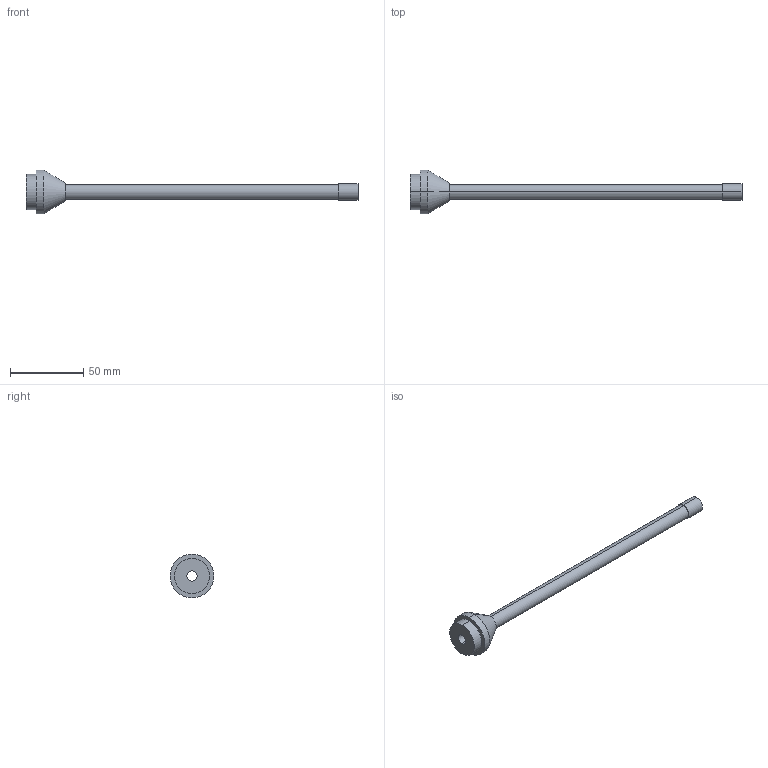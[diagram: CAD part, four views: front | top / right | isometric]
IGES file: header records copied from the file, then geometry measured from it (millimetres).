
Start section: SolidWorks IGES FILE using analytic representation for surfaces
Global section: file name: \\intra-srv04\開発データ\CAD_Data\CAD委員会\3D電子ｶﾀﾛｸﾞ\製品カタログ（新）\0_IGES\ER-AD20.IGS,41HSolidWorks 2004; native system: by SolidWorks Corporation; preprocessor: Version 5.3; author: mf1158; date: 050905.105718; units: millimetre
Bounding box: 227 x 30 x 30 mm (x, y, z)
Volume: 19400.9 mm3; surface area: 14245.1 mm2
Topology: 1 solids, 1 shells, 17 faces, 34 edges, 22 vertices
Faces by surface type: revolution 12, plane 5
